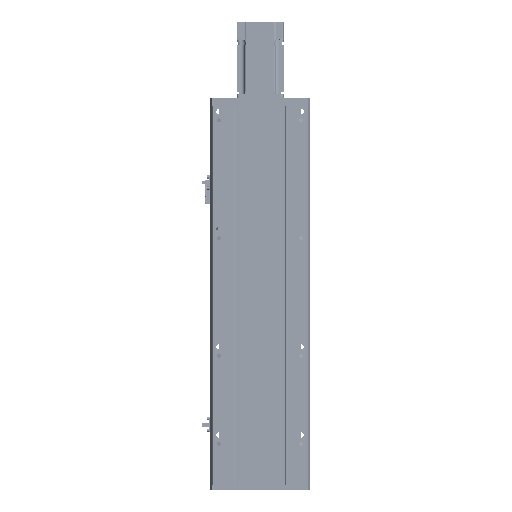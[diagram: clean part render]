
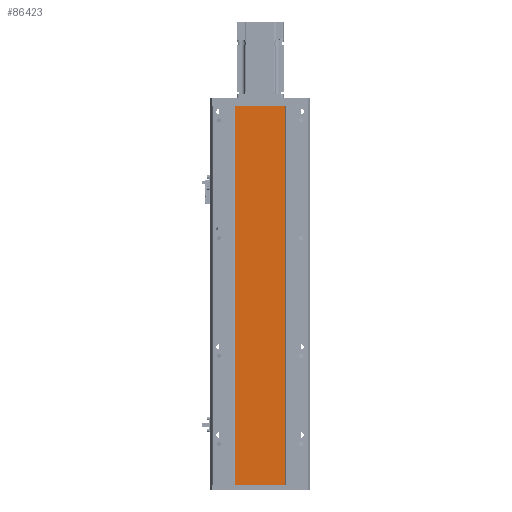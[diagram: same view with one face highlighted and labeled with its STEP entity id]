
A CAD part, front view. The second image highlights one B-rep face of the part: STEP entity #86423.
In plain terms, the highlighted planar face has unit normal (0, -1, 0).
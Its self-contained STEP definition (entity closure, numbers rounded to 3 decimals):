
#268 = EDGE_CURVE ( 'NONE', #95454, #71861, #42710, .T. ) ;
#1766 = VECTOR ( 'NONE', #25134, 1000. ) ;
#4493 = VECTOR ( 'NONE', #20531, 1000. ) ;
#5397 = DIRECTION ( 'NONE',  ( 0., -1., 0. ) ) ;
#6335 = DIRECTION ( 'NONE',  ( 0., 0., 1. ) ) ;
#7008 = CARTESIAN_POINT ( 'NONE',  ( -42., 0., -645. ) ) ;
#7685 = AXIS2_PLACEMENT_3D ( 'NONE', #67841, #5397, #60344 ) ;
#12385 = CARTESIAN_POINT ( 'NONE',  ( -42., 0., 0. ) ) ;
#12753 = EDGE_CURVE ( 'NONE', #71861, #97831, #46226, .T. ) ;
#20531 = DIRECTION ( 'NONE',  ( 1., 0., 0. ) ) ;
#20593 = ORIENTED_EDGE ( 'NONE', *, *, #57902, .T. ) ;
#25134 = DIRECTION ( 'NONE',  ( 1., 0., 0. ) ) ;
#27363 = LINE ( 'NONE', #36080, #87597 ) ;
#31394 = VERTEX_POINT ( 'NONE', #99202 ) ;
#36080 = CARTESIAN_POINT ( 'NONE',  ( 42., 0., -645. ) ) ;
#37793 = VECTOR ( 'NONE', #6335, 1000. ) ;
#42710 = LINE ( 'NONE', #92927, #37793 ) ;
#43957 = DIRECTION ( 'NONE',  ( 0., 0., 1. ) ) ;
#46226 = LINE ( 'NONE', #12385, #4493 ) ;
#48965 = EDGE_LOOP ( 'NONE', ( #70716, #80950, #20593, #67559 ) ) ;
#56742 = CARTESIAN_POINT ( 'NONE',  ( -42., 0., -645. ) ) ;
#57902 = EDGE_CURVE ( 'NONE', #95454, #31394, #90341, .T. ) ;
#58843 = CARTESIAN_POINT ( 'NONE',  ( -42., 0., 0. ) ) ;
#60344 = DIRECTION ( 'NONE',  ( 0., 0., -1. ) ) ;
#67559 = ORIENTED_EDGE ( 'NONE', *, *, #74559, .T. ) ;
#67841 = CARTESIAN_POINT ( 'NONE',  ( -42., 0., -645. ) ) ;
#70716 = ORIENTED_EDGE ( 'NONE', *, *, #12753, .F. ) ;
#71861 = VERTEX_POINT ( 'NONE', #58843 ) ;
#74135 = FACE_OUTER_BOUND ( 'NONE', #48965, .T. ) ;
#74559 = EDGE_CURVE ( 'NONE', #31394, #97831, #27363, .T. ) ;
#80950 = ORIENTED_EDGE ( 'NONE', *, *, #268, .F. ) ;
#86423 = ADVANCED_FACE ( 'NONE', ( #74135 ), #99630, .T. ) ;
#87597 = VECTOR ( 'NONE', #43957, 1000. ) ;
#87682 = CARTESIAN_POINT ( 'NONE',  ( 42., 0., 0. ) ) ;
#90341 = LINE ( 'NONE', #56742, #1766 ) ;
#92927 = CARTESIAN_POINT ( 'NONE',  ( -42., 0., -645. ) ) ;
#95454 = VERTEX_POINT ( 'NONE', #7008 ) ;
#97831 = VERTEX_POINT ( 'NONE', #87682 ) ;
#99202 = CARTESIAN_POINT ( 'NONE',  ( 42., 0., -645. ) ) ;
#99630 = PLANE ( 'NONE',  #7685 ) ;
